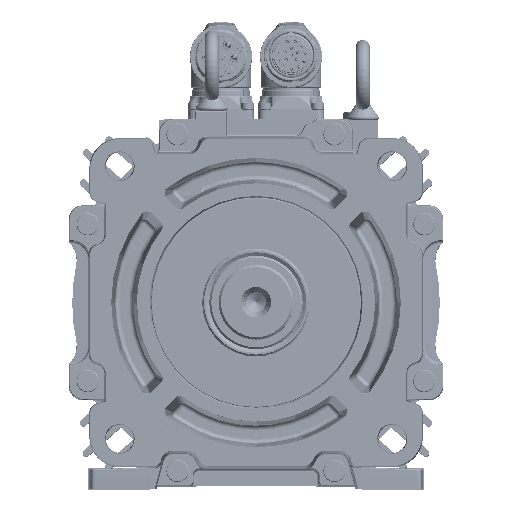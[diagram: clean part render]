
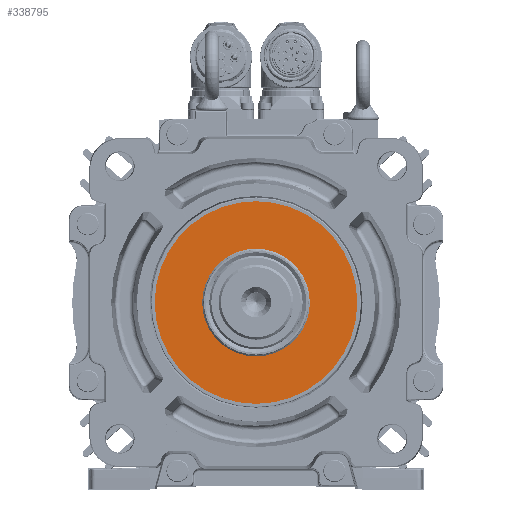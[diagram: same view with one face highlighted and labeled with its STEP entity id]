
A CAD part, top view. The second image highlights one B-rep face of the part: STEP entity #338795.
In plain terms, the highlighted planar face has unit normal (0, 0, 1) as drawn and (0, 1, 0) by its records, which use the part's own axes.
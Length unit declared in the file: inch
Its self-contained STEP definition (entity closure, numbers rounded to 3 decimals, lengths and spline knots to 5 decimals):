
#338232=CARTESIAN_POINT('',(0.,0.03,0.));
#338233=DIRECTION('',(0.,-1.,0.));
#338234=DIRECTION('',(1.,0.,0.));
#338235=AXIS2_PLACEMENT_3D('',#338232,#338233,#338234);
#338240=CARTESIAN_POINT('',(0.,0.03,0.));
#338241=DIRECTION('',(0.,-1.,0.));
#338242=DIRECTION('',(-1.,0.,0.));
#338243=AXIS2_PLACEMENT_3D('',#338240,#338241,#338242);
#338248=CARTESIAN_POINT('',(0.,0.03,0.));
#338249=DIRECTION('',(0.,1.,0.));
#338250=DIRECTION('',(1.,0.,0.));
#338251=AXIS2_PLACEMENT_3D('',#338248,#338249,#338250);
#338256=CARTESIAN_POINT('',(0.,0.03,0.));
#338257=DIRECTION('',(0.,1.,0.));
#338258=DIRECTION('',(-1.,0.,0.));
#338259=AXIS2_PLACEMENT_3D('',#338256,#338257,#338258);
#338522=CARTESIAN_POINT('',(0.9074,0.03,0.));
#338523=VERTEX_POINT('',#338522);
#338524=CARTESIAN_POINT('',(-0.9074,0.03,0.));
#338525=VERTEX_POINT('',#338524);
#338526=CARTESIAN_POINT('',(1.74165,0.03,0.));
#338527=CARTESIAN_POINT('',(-1.74165,0.03,0.));
#338528=VERTEX_POINT('',#338526);
#338529=VERTEX_POINT('',#338527);
#338780=CARTESIAN_POINT('',(0.,0.03,0.));
#338781=DIRECTION('',(0.,1.,0.));
#338782=DIRECTION('',(1.,0.,0.));
#338783=AXIS2_PLACEMENT_3D('',#338780,#338781,#338782);
#338784=PLANE('',#338783);
#338785=ORIENTED_EDGE('',*,*,#338775,.T.);
#338786=ORIENTED_EDGE('',*,*,#338759,.T.);
#338787=EDGE_LOOP('',(#338785,#338786));
#338788=FACE_OUTER_BOUND('',#338787,.F.);
#338790=ORIENTED_EDGE('',*,*,#338789,.T.);
#338792=ORIENTED_EDGE('',*,*,#338791,.T.);
#338793=EDGE_LOOP('',(#338790,#338792));
#338794=FACE_BOUND('',#338793,.F.);
#338795=ADVANCED_FACE('',(#338788,#338794),#338784,.T.);
#338236=CIRCLE('',#338235,1.74165);
#338244=CIRCLE('',#338243,1.74165);
#338252=CIRCLE('',#338251,0.9074);
#338260=CIRCLE('',#338259,0.9074);
#338759=EDGE_CURVE('',#338529,#338528,#338244,.T.);
#338775=EDGE_CURVE('',#338528,#338529,#338236,.T.);
#338789=EDGE_CURVE('',#338523,#338525,#338252,.T.);
#338791=EDGE_CURVE('',#338525,#338523,#338260,.T.);
